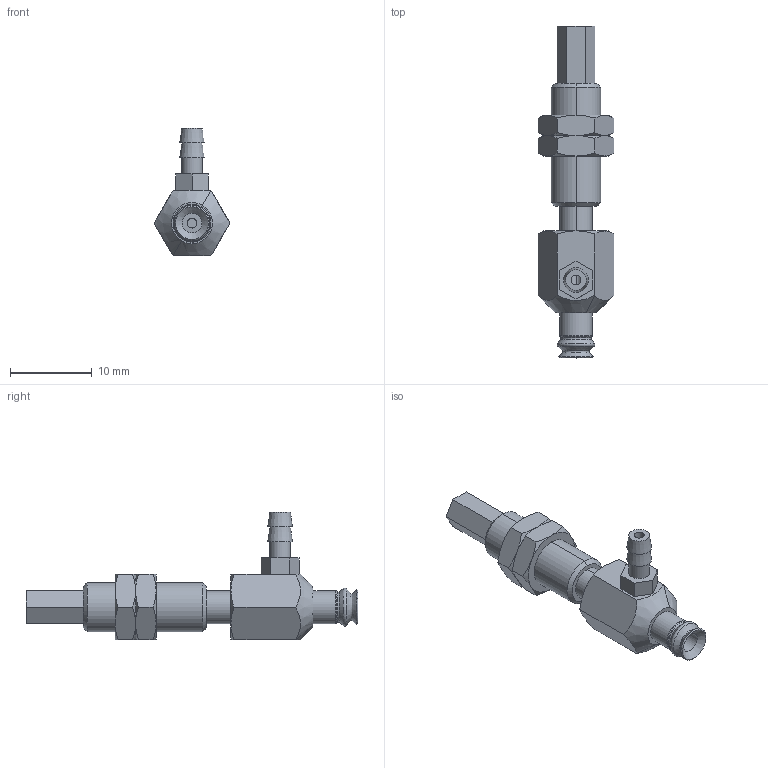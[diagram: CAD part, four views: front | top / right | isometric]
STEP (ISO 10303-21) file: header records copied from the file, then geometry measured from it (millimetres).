
FILE_DESCRIPTION(('STEP AP203'),'1');
FILE_NAME('-T.stp','2025-04-23T06:54:47',(' '),(' '),'Spatial InterOp 3D',' ',' ');
FILE_SCHEMA(('CONFIG_CONTROL_DESIGN'));
Length unit declared in the file: millimetre
Products named in the file (7): BNABPJYS-4-3-※-T; _Nut_1_5A_3_s; _CONNECTOR_1_5A_3; _NAPFTS_1_5A_3_FBODY; _NAPFTS_1_5A_3_MBODY; BPJG-4-※; T (2)
Assembly tree (7 placements, depth 2):
  BNABPJYS-4-3-※-T
    _Nut_1_5A_3_s  x2
    _CONNECTOR_1_5A_3
    _NAPFTS_1_5A_3_FBODY
    _NAPFTS_1_5A_3_MBODY
    BPJG-4-※
    T (2)
Bounding box: 9.24 x 40.5 x 15.6 mm (x, y, z)
Volume: 1301.2 mm3; surface area: 2050.6 mm2
Topology: 7 solids, 7 shells, 170 faces, 372 edges, 224 vertices
Faces by surface type: plane 67, cone 64, cylinder 29, torus 10
Full cylindrical faces by diameter (mm): 1.2 x1, 2 x1, 2.4 x1, 2.5 x1, 3 x2, 4 x1
Entity records: 4203 total; most frequent: CARTESIAN_POINT 825, DIRECTION 657, ORIENTED_EDGE 566, EDGE_CURVE 283, AXIS2_PLACEMENT_3D 272, EDGE_LOOP 189, VERTEX_POINT 184, FACE_OUTER_BOUND 159
